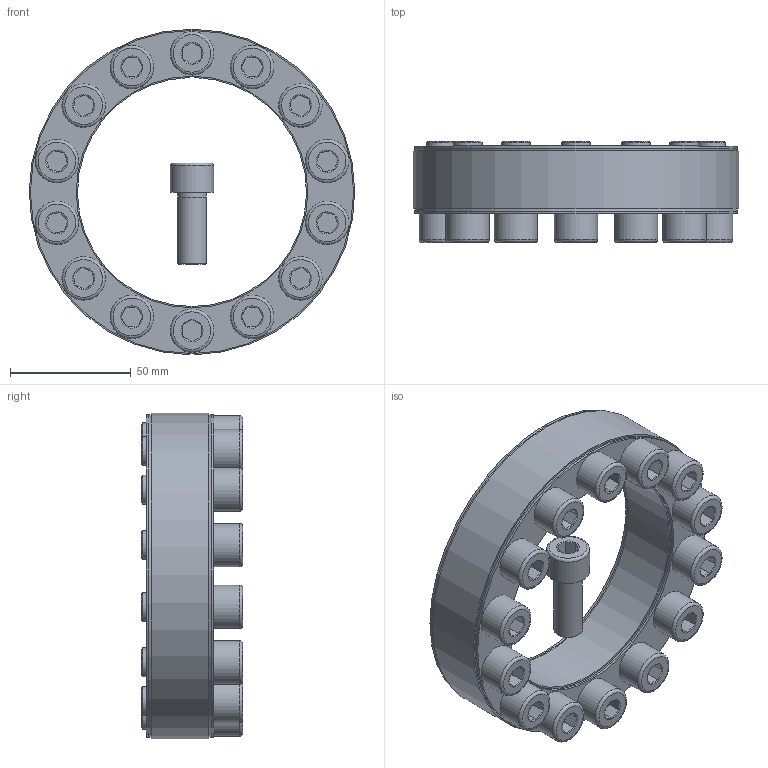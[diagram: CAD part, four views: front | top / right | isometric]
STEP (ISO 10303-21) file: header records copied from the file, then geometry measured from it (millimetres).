
FILE_DESCRIPTION( ( 'Unknown' ), '1' );
FILE_NAME( 'C:/Dokumente und Einstellungen/Sven/Desktop/homepage/cad - homepage/KBS40/KBS 40 - 95 x 135.stp', 'Unknown', ( 'Unknown' ), ( 'Unknown' ), 'XStep 1.0', 'Unknown', ' ' );
FILE_SCHEMA( ( 'automotive_design' ) );
Length unit declared in the file: millimetre
Products named in the file (16): Assem1; KBS 40 95x135; ISO 4762 M12x30; ISO 4762 M12x30-oa0; ISO 4762 M12x30-oa1; ISO 4762 M12x30-oa2; ISO 4762 M12x30-oa3; ISO 4762 M12x30-oa4; ISO 4762 M12x30-oa5; ISO 4762 M12x30-oa6; ISO 4762 M12x30-oa7; ISO 4762 M12x30-oa8; ISO 4762 M12x30-oa9; ISO 4762 M12x30-oa10; ISO 4762 M12x30-oa11; ISO 4762 M12x30-oa12
Bounding box: 135 x 42 x 134.99 mm (x, y, z)
Volume: 482991.4 mm3; surface area: 162719.6 mm2
Topology: 30 solids, 30 shells, 788 faces, 1456 edges, 840 vertices
Faces by surface type: plane 376, cone 204, cylinder 152, torus 56
Full cylindrical faces by diameter (mm): 11 x28, 12 x84, 18 x28, 96 x4, 134 x4
Entity records: 9689 total; most frequent: CARTESIAN_POINT 2022, DIRECTION 1600, ORIENTED_EDGE 1156, AXIS2_PLACEMENT_3D 696, EDGE_LOOP 600, EDGE_CURVE 578, FACE_OUTER_BOUND 496, ADVANCED_FACE 394
